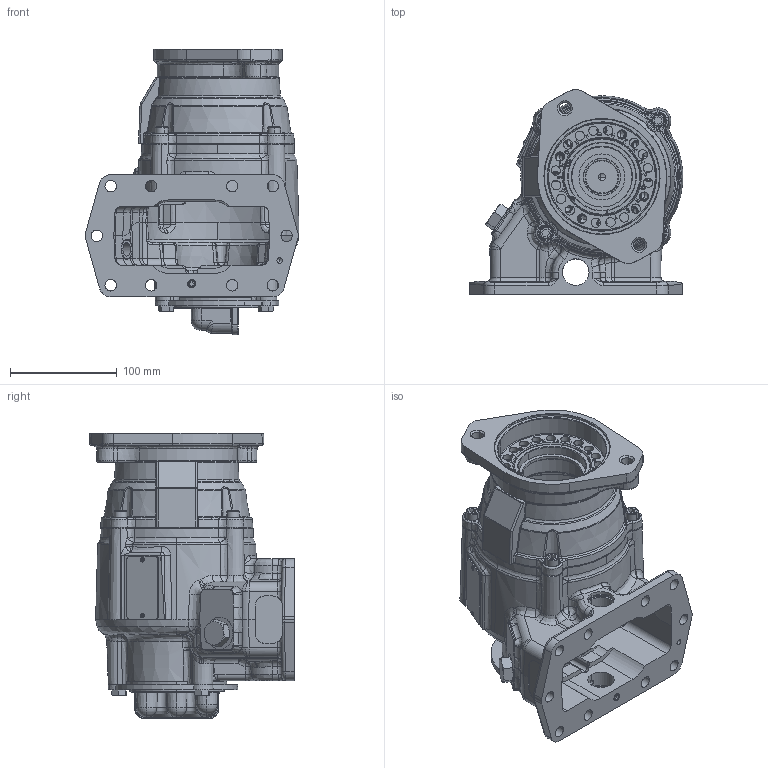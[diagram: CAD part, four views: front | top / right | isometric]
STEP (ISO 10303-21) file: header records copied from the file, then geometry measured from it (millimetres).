
FILE_DESCRIPTION (( 'STEP AP203' ), '1' );
FILE_NAME ('A30-A10XX-MX1BSPX.STEP', '2023-03-07T16:02:39', ( '' ), ( '' ), 'SwSTEP 2.0', 'SolidWorks 2021', '' );
FILE_SCHEMA (( 'CONFIG_CONTROL_DESIGN' ));
Length unit declared in the file: inch
Products named in the file (8): A30-A10XX-MX1BSPX; 15T64348_DIECAST DESIGN; 19T36588_19T36588; RemoteMountRearCover; 01T43462_1Arrangement; 15T65391DB3; 19T3314_RearCover_HexHeadCapScrew_19T33134; A30-SAE-B-2B-Flange_14T65650.step
Assembly tree (12 placements, depth 2):
  A30-A10XX-MX1BSPX
    01T43462_1Arrangement
    A30-SAE-B-2B-Flange_14T65650.step
    15T65391DB3
    19T36588_19T36588  x4
    RemoteMountRearCover
    15T64348_DIECAST DESIGN
    19T3314_RearCover_HexHeadCapScrew_19T33134  x3
Bounding box: 200.33 x 192 x 267.67 mm (x, y, z)
Volume: 624154.5 mm3; surface area: 416753.2 mm2
Topology: 11 solids, 24 shells, 2767 faces, 6867 edges, 4205 vertices
Faces by surface type: plane 851, bspline 828, cylinder 580, cone 338, torus 158, sphere 12
Entity records: 126066 total; most frequent: CARTESIAN_POINT 67511, ORIENTED_EDGE 13054, DIRECTION 10375, EDGE_CURVE 6536, VERTEX_POINT 4062, AXIS2_PLACEMENT_3D 3825, EDGE_LOOP 2929, LINE 2725
